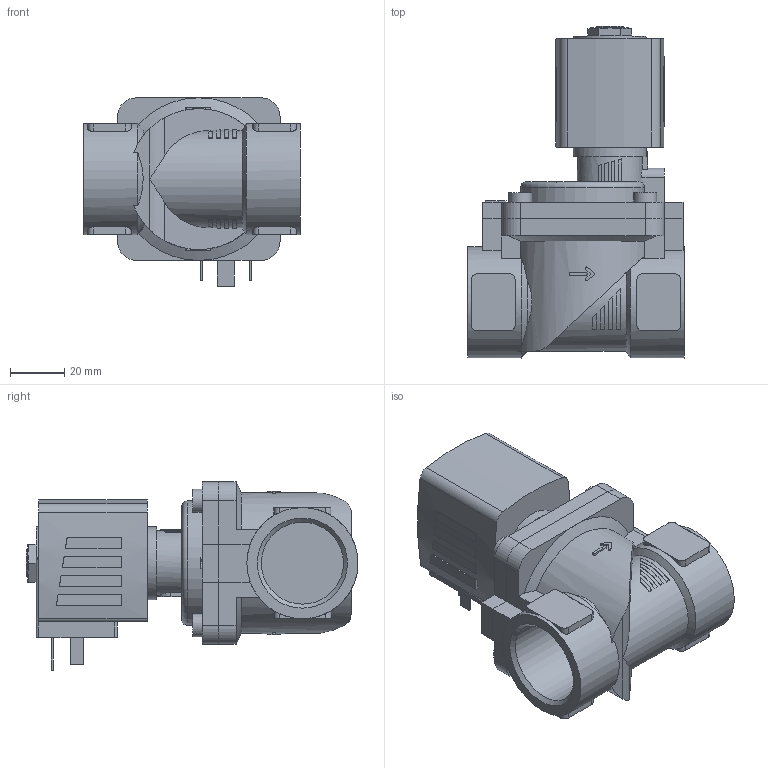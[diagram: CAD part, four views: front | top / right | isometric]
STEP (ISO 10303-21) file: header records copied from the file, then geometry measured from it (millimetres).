
FILE_DESCRIPTION(/* description */ ('STEP AP214'),/* implementation_level */ '2;1');
FILE_NAME(/* name */ '6281-275152-2_2-Way_Solenoid_Valve__Servo-assisted__General_Purpose',/* time_stamp */ '2024-05-23T22:57:49+02:00',/* author */ ('License CC BY-ND 4.0'),/* organization */ ('CADENAS'),/* preprocessor_version */ 'ST-DEVELOPER v19.3',/* originating_system */ 'PARTsolutions',/* authorisation */ ' ');
FILE_SCHEMA (('AUTOMOTIVE_DESIGN {1 0 10303 214 3 1 1}'));
Length unit declared in the file: millimetre
Products named in the file (4): 6281-275152-2/2-Way Solenoid Valve, Servo-assisted, General Purpose; 5281ev200MS2/2-Wege-Magnetventil mit Servomembran-Deckel   ; 6213-20G1MS-Gehaeuse-; AC10ex-6NA38-Plan-Coil
Assembly tree (3 placements, depth 2):
  6281-275152-2/2-Way Solenoid Valve, Servo-assisted, General Purpose
    5281ev200MS2/2-Wege-Magnetventil mit Servomembran-Deckel   
    6213-20G1MS-Gehaeuse-
    AC10ex-6NA38-Plan-Coil
Bounding box: 80 x 122.5 x 69.5 mm (x, y, z)
Volume: 233167.3 mm3; surface area: 48135.1 mm2
Topology: 3 solids, 3 shells, 332 faces, 845 edges, 557 vertices
Faces by surface type: plane 229, cylinder 87, cone 15, torus 1
Full cylindrical faces by diameter (mm): 2.013 x1, 8.5 x4, 9.74 x1, 27 x1, 30.291 x2, 41 x2
Entity records: 11278 total; most frequent: CARTESIAN_POINT 1983, DIRECTION 1676, ORIENTED_EDGE 1644, EDGE_CURVE 822, AXIS2_PLACEMENT_3D 588, VERTEX_POINT 549, LINE 500, VECTOR 500
